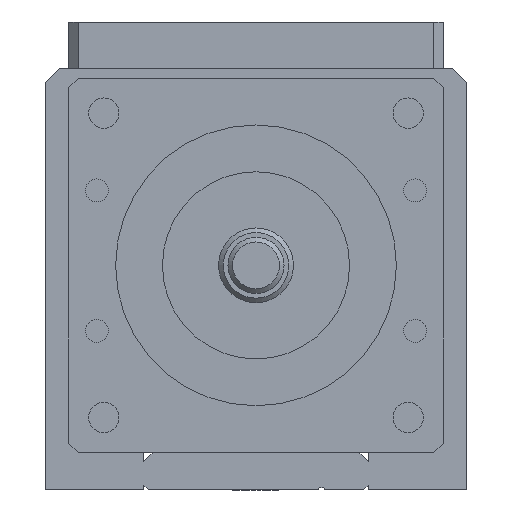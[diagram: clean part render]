
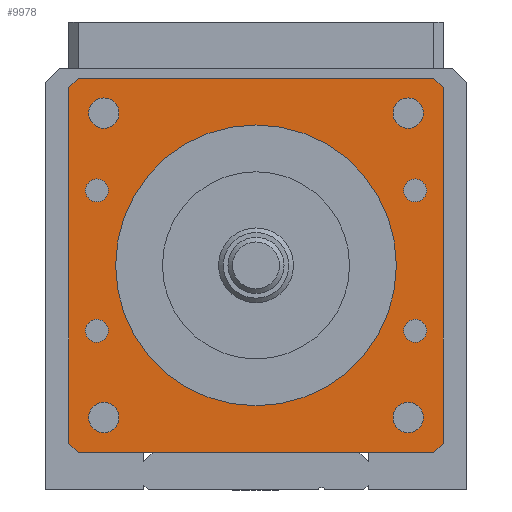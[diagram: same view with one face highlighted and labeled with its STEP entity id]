
A CAD part, left-side view. The second image highlights one B-rep face of the part: STEP entity #9978.
In plain terms, the highlighted planar face has unit normal (-1, 0, 0).
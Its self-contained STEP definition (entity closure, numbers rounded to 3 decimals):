
#9390=CARTESIAN_POINT('',(-9.0,-14.642,7.737));
#9391=VERTEX_POINT('',#9390);
#9392=CARTESIAN_POINT('',(-9.0,-16.263,7.737));
#9393=DIRECTION('',(1.0,0.0,0.0));
#9394=DIRECTION('',(0.0,1.0,0.0));
#9395=AXIS2_PLACEMENT_3D('',#9392,#9393,#9394);
#9396=CIRCLE('',#9395,1.621);
#9397=EDGE_CURVE('',#9391,#9391,#9396,.T.);
#9418=CARTESIAN_POINT('',(-9.0,17.884,40.263));
#9419=VERTEX_POINT('',#9418);
#9420=CARTESIAN_POINT('',(-9.0,16.263,40.263));
#9421=DIRECTION('',(1.0,0.0,0.0));
#9422=DIRECTION('',(0.0,1.0,0.0));
#9423=AXIS2_PLACEMENT_3D('',#9420,#9421,#9422);
#9424=CIRCLE('',#9423,1.621);
#9425=EDGE_CURVE('',#9419,#9419,#9424,.T.);
#9446=CARTESIAN_POINT('',(-9.0,17.884,7.737));
#9447=VERTEX_POINT('',#9446);
#9448=CARTESIAN_POINT('',(-9.0,16.263,7.737));
#9449=DIRECTION('',(1.0,0.0,0.0));
#9450=DIRECTION('',(0.0,1.0,0.0));
#9451=AXIS2_PLACEMENT_3D('',#9448,#9449,#9450);
#9452=CIRCLE('',#9451,1.621);
#9453=EDGE_CURVE('',#9447,#9447,#9452,.T.);
#9474=CARTESIAN_POINT('',(-9.0,-14.642,40.263));
#9475=VERTEX_POINT('',#9474);
#9476=CARTESIAN_POINT('',(-9.0,-16.263,40.263));
#9477=DIRECTION('',(1.0,0.0,0.0));
#9478=DIRECTION('',(0.0,1.0,0.0));
#9479=AXIS2_PLACEMENT_3D('',#9476,#9477,#9478);
#9480=CIRCLE('',#9479,1.621);
#9481=EDGE_CURVE('',#9475,#9475,#9480,.T.);
#9494=CARTESIAN_POINT('',(-9.0,-15.771,32.));
#9495=VERTEX_POINT('',#9494);
#9496=CARTESIAN_POINT('',(-9.0,-17.0,32.));
#9497=DIRECTION('',(1.0,0.0,0.0));
#9498=DIRECTION('',(0.0,1.0,0.0));
#9499=AXIS2_PLACEMENT_3D('',#9496,#9497,#9498);
#9500=CIRCLE('',#9499,1.23);
#9501=EDGE_CURVE('',#9495,#9495,#9500,.T.);
#9514=CARTESIAN_POINT('',(-9.0,18.229,32.));
#9515=VERTEX_POINT('',#9514);
#9516=CARTESIAN_POINT('',(-9.0,17.,32.));
#9517=DIRECTION('',(1.0,0.0,0.0));
#9518=DIRECTION('',(0.0,1.0,0.0));
#9519=AXIS2_PLACEMENT_3D('',#9516,#9517,#9518);
#9520=CIRCLE('',#9519,1.23);
#9521=EDGE_CURVE('',#9515,#9515,#9520,.T.);
#9534=CARTESIAN_POINT('',(-9.0,18.229,17.));
#9535=VERTEX_POINT('',#9534);
#9536=CARTESIAN_POINT('',(-9.0,17.,17.));
#9537=DIRECTION('',(1.0,0.0,0.0));
#9538=DIRECTION('',(0.0,1.0,0.0));
#9539=AXIS2_PLACEMENT_3D('',#9536,#9537,#9538);
#9540=CIRCLE('',#9539,1.23);
#9541=EDGE_CURVE('',#9535,#9535,#9540,.T.);
#9554=CARTESIAN_POINT('',(-9.0,-15.77,17.));
#9555=VERTEX_POINT('',#9554);
#9556=CARTESIAN_POINT('',(-9.0,-17.0,17.));
#9557=DIRECTION('',(1.0,0.0,0.0));
#9558=DIRECTION('',(0.0,1.0,0.0));
#9559=AXIS2_PLACEMENT_3D('',#9556,#9557,#9558);
#9560=CIRCLE('',#9559,1.23);
#9561=EDGE_CURVE('',#9555,#9555,#9560,.T.);
#9582=CARTESIAN_POINT('',(-9.0,0.0,39.));
#9583=VERTEX_POINT('',#9582);
#9584=CARTESIAN_POINT('',(-9.0,0.0,24.));
#9585=DIRECTION('',(1.0,0.0,0.0));
#9586=DIRECTION('',(0.0,0.0,1.0));
#9587=AXIS2_PLACEMENT_3D('',#9584,#9585,#9586);
#9588=CIRCLE('',#9587,15.0);
#9589=EDGE_CURVE('',#9583,#9583,#9588,.T.);
#9689=CARTESIAN_POINT('',(-9.0,19.,44.));
#9690=VERTEX_POINT('',#9689);
#9697=CARTESIAN_POINT('',(-9.0,-19.0,44.));
#9698=VERTEX_POINT('',#9697);
#9699=CARTESIAN_POINT('',(-9.0,-19.0,44.));
#9700=DIRECTION('',(0.0,1.0,0.0));
#9701=VECTOR('',#9700,38.0);
#9702=LINE('',#9699,#9701);
#9703=EDGE_CURVE('',#9698,#9690,#9702,.T.);
#9727=CARTESIAN_POINT('',(-9.0,20.0,43.));
#9728=VERTEX_POINT('',#9727);
#9735=CARTESIAN_POINT('',(-9.0,19.,44.));
#9736=DIRECTION('',(0.0,0.707,-0.707));
#9737=VECTOR('',#9736,1.414);
#9738=LINE('',#9735,#9737);
#9739=EDGE_CURVE('',#9690,#9728,#9738,.T.);
#9758=CARTESIAN_POINT('',(-9.0,20.,5.));
#9759=VERTEX_POINT('',#9758);
#9766=CARTESIAN_POINT('',(-9.0,20.0,43.));
#9767=DIRECTION('',(0.0,0.0,-1.0));
#9768=VECTOR('',#9767,38.);
#9769=LINE('',#9766,#9768);
#9770=EDGE_CURVE('',#9728,#9759,#9769,.T.);
#9789=CARTESIAN_POINT('',(-9.0,19.,4.));
#9790=VERTEX_POINT('',#9789);
#9797=CARTESIAN_POINT('',(-9.0,20.,5.));
#9798=DIRECTION('',(0.0,-0.707,-0.707));
#9799=VECTOR('',#9798,1.414);
#9800=LINE('',#9797,#9799);
#9801=EDGE_CURVE('',#9759,#9790,#9800,.T.);
#9834=CARTESIAN_POINT('',(-9.0,-19.0,4.));
#9835=VERTEX_POINT('',#9834);
#9842=CARTESIAN_POINT('',(-9.0,19.,4.));
#9843=DIRECTION('',(0.0,-1.0,0.0));
#9844=VECTOR('',#9843,38.0);
#9845=LINE('',#9842,#9844);
#9846=EDGE_CURVE('',#9790,#9835,#9845,.T.);
#9865=CARTESIAN_POINT('',(-9.0,-20.0,5.));
#9866=VERTEX_POINT('',#9865);
#9873=CARTESIAN_POINT('',(-9.0,-19.0,4.));
#9874=DIRECTION('',(0.0,-0.707,0.707));
#9875=VECTOR('',#9874,1.414);
#9876=LINE('',#9873,#9875);
#9877=EDGE_CURVE('',#9835,#9866,#9876,.T.);
#9896=CARTESIAN_POINT('',(-9.0,-20.,43.));
#9897=VERTEX_POINT('',#9896);
#9904=CARTESIAN_POINT('',(-9.0,-20.0,5.));
#9905=DIRECTION('',(0.0,0.0,1.0));
#9906=VECTOR('',#9905,38.);
#9907=LINE('',#9904,#9906);
#9908=EDGE_CURVE('',#9866,#9897,#9907,.T.);
#9926=CARTESIAN_POINT('',(-9.0,-20.,43.));
#9927=DIRECTION('',(0.0,0.707,0.707));
#9928=VECTOR('',#9927,1.414);
#9929=LINE('',#9926,#9928);
#9930=EDGE_CURVE('',#9897,#9698,#9929,.T.);
#9936=CARTESIAN_POINT('',(-9.0,0.,24.));
#9937=DIRECTION('',(1.0,0.0,0.0));
#9938=DIRECTION('',(0.0,0.0,-1.0));
#9939=AXIS2_PLACEMENT_3D('',#9936,#9937,#9938);
#9940=PLANE('',#9939);
#9941=ORIENTED_EDGE('',*,*,#9930,.T.);
#9942=ORIENTED_EDGE('',*,*,#9703,.T.);
#9943=ORIENTED_EDGE('',*,*,#9739,.T.);
#9944=ORIENTED_EDGE('',*,*,#9770,.T.);
#9945=ORIENTED_EDGE('',*,*,#9801,.T.);
#9946=ORIENTED_EDGE('',*,*,#9846,.T.);
#9947=ORIENTED_EDGE('',*,*,#9877,.T.);
#9948=ORIENTED_EDGE('',*,*,#9908,.T.);
#9949=EDGE_LOOP('',(#9941,#9942,#9943,#9944,#9945,#9946,#9947,#9948));
#9950=FACE_OUTER_BOUND('',#9949,.T.);
#9951=ORIENTED_EDGE('',*,*,#9397,.T.);
#9952=EDGE_LOOP('',(#9951));
#9953=FACE_BOUND('',#9952,.T.);
#9954=ORIENTED_EDGE('',*,*,#9425,.T.);
#9955=EDGE_LOOP('',(#9954));
#9956=FACE_BOUND('',#9955,.T.);
#9957=ORIENTED_EDGE('',*,*,#9453,.T.);
#9958=EDGE_LOOP('',(#9957));
#9959=FACE_BOUND('',#9958,.T.);
#9960=ORIENTED_EDGE('',*,*,#9481,.T.);
#9961=EDGE_LOOP('',(#9960));
#9962=FACE_BOUND('',#9961,.T.);
#9963=ORIENTED_EDGE('',*,*,#9501,.T.);
#9964=EDGE_LOOP('',(#9963));
#9965=FACE_BOUND('',#9964,.T.);
#9966=ORIENTED_EDGE('',*,*,#9521,.T.);
#9967=EDGE_LOOP('',(#9966));
#9968=FACE_BOUND('',#9967,.T.);
#9969=ORIENTED_EDGE('',*,*,#9541,.T.);
#9970=EDGE_LOOP('',(#9969));
#9971=FACE_BOUND('',#9970,.T.);
#9972=ORIENTED_EDGE('',*,*,#9561,.T.);
#9973=EDGE_LOOP('',(#9972));
#9974=FACE_BOUND('',#9973,.T.);
#9975=ORIENTED_EDGE('',*,*,#9589,.T.);
#9976=EDGE_LOOP('',(#9975));
#9977=FACE_BOUND('',#9976,.T.);
#9978=ADVANCED_FACE('',(#9950,#9953,#9956,#9959,#9962,#9965,#9968,#9971,#9974,#9977),#9940,.F.);
